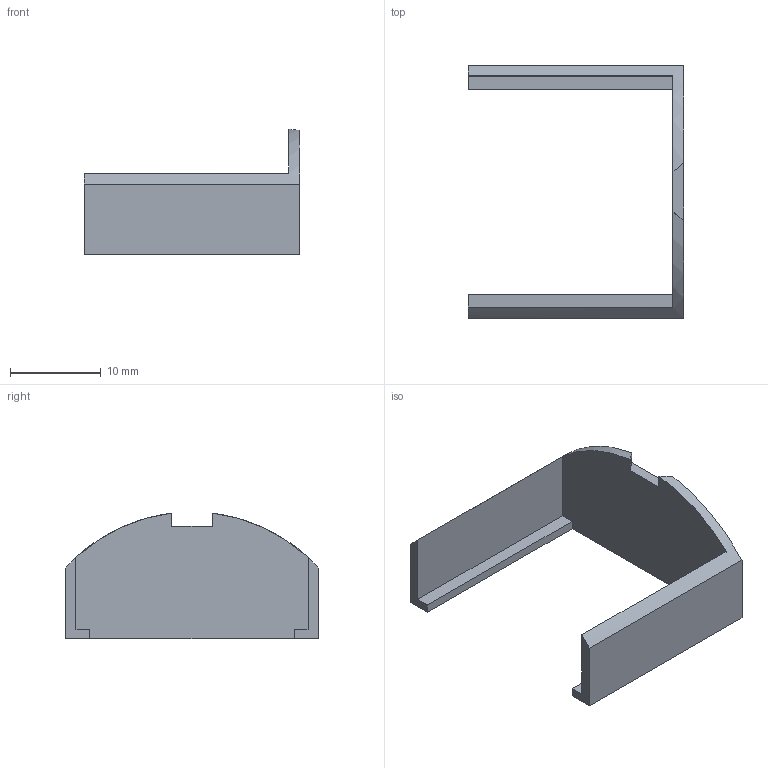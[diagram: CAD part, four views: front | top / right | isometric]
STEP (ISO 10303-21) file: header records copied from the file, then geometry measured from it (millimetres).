
FILE_DESCRIPTION(('SkyG Speed 90B - revision C6B-12 - 2026-10-11','HG-gps-carrier'),'2;1');
FILE_NAME('HG-gps-carrier_C6B-12','2026-10-11T16:48:45',('Author'),( 'Open CASCADE'),'Open CASCADE STEP processor 7.9','Open CASCADE 7.9' ,'Unknown');
FILE_SCHEMA(('AUTOMOTIVE_DESIGN { 1 0 10303 214 1 1 1 1 }'));
Length unit declared in the file: millimetre
Products named in the file (1): HG-gps-carrier C6B-12
Bounding box: 23.8 x 28 x 13.87 mm (x, y, z)
Volume: 920.7 mm3; surface area: 1781.3 mm2
Topology: 1 solids, 1 shells, 18 faces, 48 edges, 32 vertices
Faces by surface type: plane 16, cylinder 2
Entity records: 1192 total; most frequent: CARTESIAN_POINT 231, DIRECTION 172, LINE 112, VECTOR 112, ORIENTED_EDGE 96, PCURVE 96, DEFINITIONAL_REPRESENTATION 96, EDGE_CURVE 48
